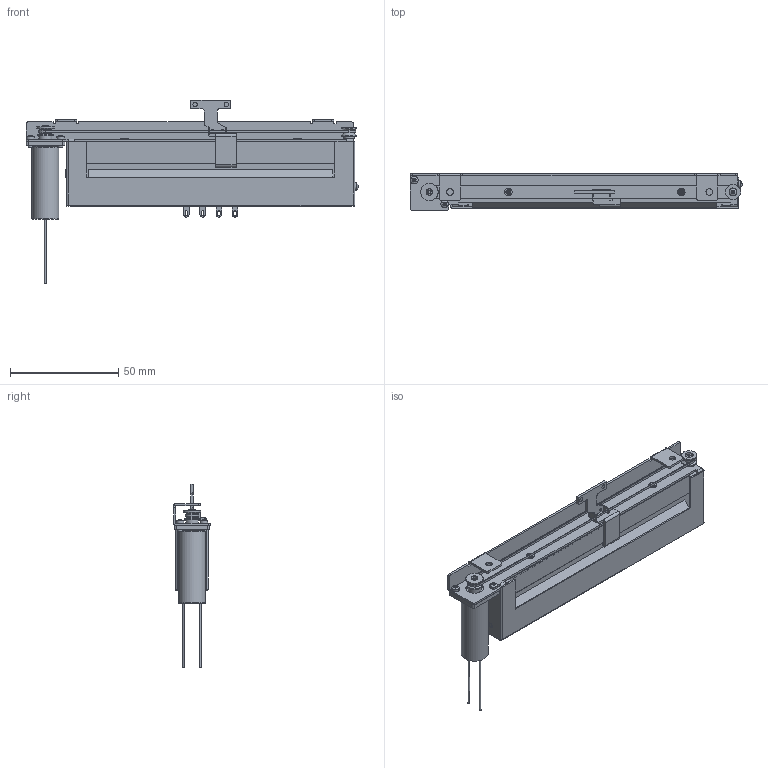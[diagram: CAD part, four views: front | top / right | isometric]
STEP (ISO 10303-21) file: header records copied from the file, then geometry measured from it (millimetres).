
FILE_DESCRIPTION(('FreeCAD Model'),'2;1');
FILE_NAME('Open CASCADE Shape Model','2025-05-15T14:23:41',(''),(''), 'Open CASCADE STEP processor 7.8','FreeCAD','Unknown');
FILE_SCHEMA(('AUTOMOTIVE_DESIGN { 1 0 10303 214 1 1 1 1 }'));
Length unit declared in the file: millimetre
Products named in the file (1): MF-915-M8V-L9-1CIR
Bounding box: 153.67 x 17 x 85 mm (x, y, z)
Volume: 57381.2 mm3; surface area: 33117.3 mm2
Topology: 1 solids, 9 shells, 742 faces, 1925 edges, 1220 vertices
Faces by surface type: plane 497, cylinder 160, cone 48, bspline 18, torus 10, sphere 6, revolution 3
Full cylindrical faces by diameter (mm): 0.9 x2, 1.1 x2, 1.2 x4, 1.25 x2, 1.46 x1, 1.5 x3, 1.6 x2, 1.9 x2, 2 x14, 2.1 x1, 2.2 x5, 2.4 x2, 2.6 x3, 3 x4, 3.03 x1, 3.2 x2, 3.5 x4, 3.6 x2, 3.7 x1, 4 x5, 4.1 x1, 4.75 x1, 5 x1, 5.38 x1, 6 x1, 7 x3, 8 x1, 8.2 x1, 12 x1, 12.5 x1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
Entity records: 27695 total; most frequent: CARTESIAN_POINT 4137, DIRECTION 3954, ORIENTED_EDGE 3846, EDGE_CURVE 1919, AXIS2_PLACEMENT_3D 1359, LINE 1233, VECTOR 1233, VERTEX_POINT 1220
